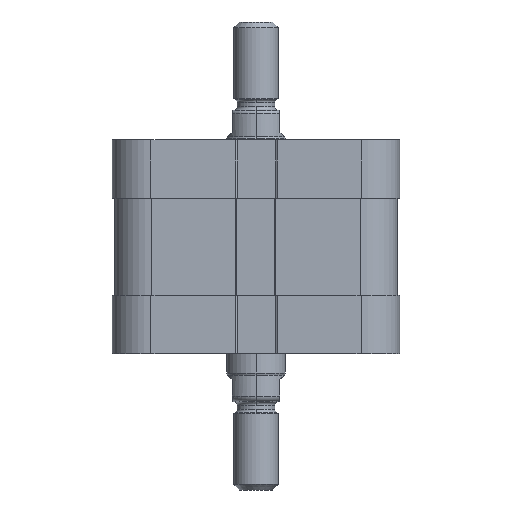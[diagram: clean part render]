
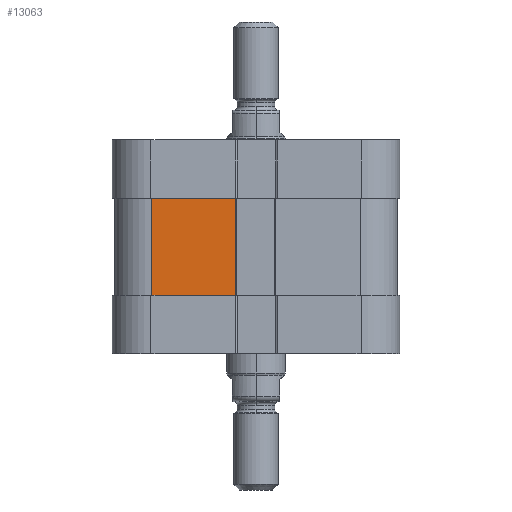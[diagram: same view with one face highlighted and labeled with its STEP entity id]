
A CAD part, left-side view. The second image highlights one B-rep face of the part: STEP entity #13063.
In plain terms, the highlighted planar face has unit normal (-1, 0, 0).
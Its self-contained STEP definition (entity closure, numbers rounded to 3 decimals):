
#8727=CARTESIAN_POINT('',(-26.75,-9.85,-11.6));
#8728=VERTEX_POINT('',#8727);
#8736=CARTESIAN_POINT('',(-26.75,13.0,-11.6));
#8737=VERTEX_POINT('',#8736);
#8738=CARTESIAN_POINT('',(-26.75,13.0,-11.6));
#8739=DIRECTION('',(0.0,-1.0,0.0));
#8740=VECTOR('',#8739,22.85);
#8741=LINE('',#8738,#8740);
#8742=EDGE_CURVE('',#8737,#8728,#8741,.T.);
#10281=CARTESIAN_POINT('',(-26.75,13.0,14.8));
#10282=VERTEX_POINT('',#10281);
#10290=CARTESIAN_POINT('',(-26.75,-9.85,14.8));
#10291=VERTEX_POINT('',#10290);
#10292=CARTESIAN_POINT('',(-26.75,-9.85,14.8));
#10293=DIRECTION('',(0.0,1.0,0.0));
#10294=VECTOR('',#10293,22.85);
#10295=LINE('',#10292,#10294);
#10296=EDGE_CURVE('',#10291,#10282,#10295,.T.);
#12983=CARTESIAN_POINT('',(-26.75,-9.85,14.8));
#12984=DIRECTION('',(0.0,0.0,-1.0));
#12985=VECTOR('',#12984,26.4);
#12986=LINE('',#12983,#12985);
#12987=EDGE_CURVE('',#10291,#8728,#12986,.T.);
#13047=CARTESIAN_POINT('',(-26.75,-43.8,-11.6));
#13048=DIRECTION('',(-1.0,0.0,0.0));
#13049=DIRECTION('',(0.0,0.0,1.0));
#13050=AXIS2_PLACEMENT_3D('',#13047,#13048,#13049);
#13051=PLANE('',#13050);
#13052=ORIENTED_EDGE('',*,*,#12987,.F.);
#13053=ORIENTED_EDGE('',*,*,#10296,.T.);
#13054=CARTESIAN_POINT('',(-26.75,13.0,-11.6));
#13055=DIRECTION('',(0.0,0.0,1.0));
#13056=VECTOR('',#13055,26.4);
#13057=LINE('',#13054,#13056);
#13058=EDGE_CURVE('',#8737,#10282,#13057,.T.);
#13059=ORIENTED_EDGE('',*,*,#13058,.F.);
#13060=ORIENTED_EDGE('',*,*,#8742,.T.);
#13061=EDGE_LOOP('',(#13052,#13053,#13059,#13060));
#13062=FACE_OUTER_BOUND('',#13061,.T.);
#13063=ADVANCED_FACE('',(#13062),#13051,.T.);
